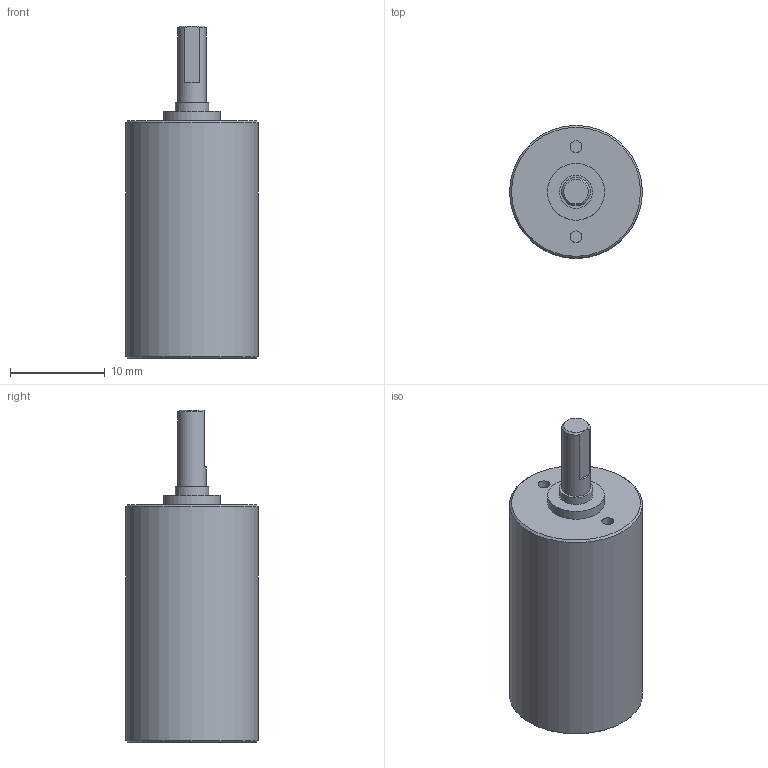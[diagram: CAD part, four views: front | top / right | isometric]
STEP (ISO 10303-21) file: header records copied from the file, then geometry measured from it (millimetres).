
FILE_DESCRIPTION(/* description */ (''),/* implementation_level */ '2;1');
FILE_NAME(/* name */ '14-1_2.stp',/* time_stamp */ '2016-08-24T13:44:14+02:00',/* author */ ('DR. FRITZ FAULHABER GmbH & Co. KG'),/* organization */ ('DR. FRITZ FAULHABER GmbH & Co. KG'),/* preprocessor_version */ 'ST-DEVELOPER v16',/* originating_system */ 'SIEMENS PLM Software NX 10.0',/* authorisation */ '');
FILE_SCHEMA (('AUTOMOTIVE_DESIGN { 1 0 10303 214 3 1 1 1 }'));
Length unit declared in the file: millimetre
Products named in the file (1): H00000255_A
Bounding box: 14 x 14 x 35 mm (x, y, z)
Volume: 2894.2 mm3; surface area: 1928.8 mm2
Topology: 1 solids, 1 shells, 22 faces, 38 edges, 25 vertices
Faces by surface type: plane 11, cylinder 8, cone 3
Full cylindrical faces by diameter (mm): 1.25 x2, 3 x1, 3.5 x1, 6 x2, 13 x1, 14 x1
Entity records: 483 total; most frequent: DIRECTION 89, CARTESIAN_POINT 76, ORIENTED_EDGE 50, AXIS2_PLACEMENT_3D 43, EDGE_LOOP 39, FACE_BOUND 32, EDGE_CURVE 25, ADVANCED_FACE 22
